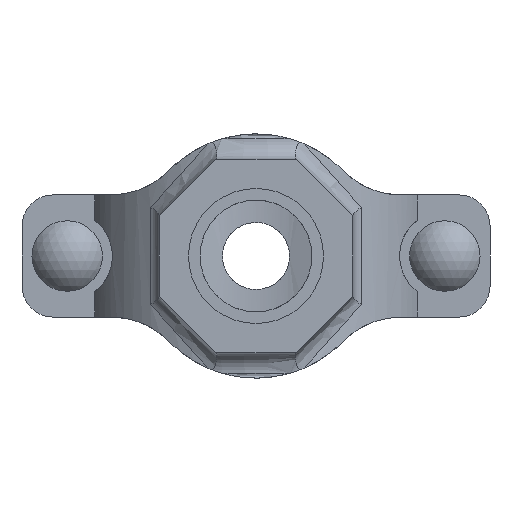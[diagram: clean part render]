
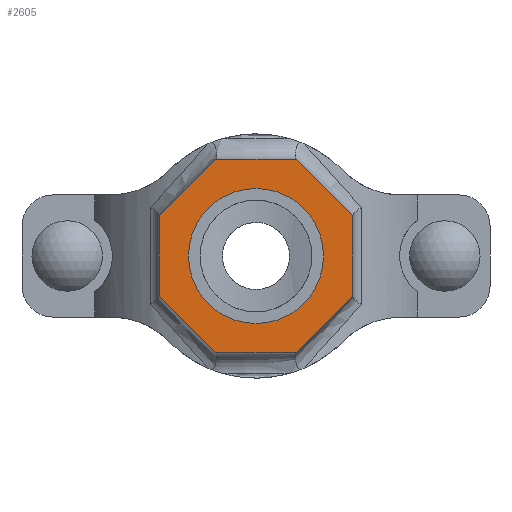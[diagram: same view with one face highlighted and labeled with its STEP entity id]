
A CAD part, front view. The second image highlights one B-rep face of the part: STEP entity #2605.
In plain terms, the highlighted planar face has unit normal (0, -1, 0) as drawn and (0, 1, 0) by its records, which use the part's own axes.
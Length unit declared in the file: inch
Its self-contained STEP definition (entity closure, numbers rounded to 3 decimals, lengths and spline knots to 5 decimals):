
#200=FACE_BOUND('',#475,.T.);
#321=FACE_OUTER_BOUND('',#474,.T.);
#474=EDGE_LOOP('',(#2173,#2174,#2175,#2176,#2177,#2178,#2179,#2180));
#475=EDGE_LOOP('',(#2181));
#615=LINE('',#4800,#801);
#618=LINE('',#4805,#804);
#620=LINE('',#4809,#806);
#622=LINE('',#4813,#808);
#654=LINE('',#5130,#840);
#656=LINE('',#5134,#842);
#658=LINE('',#5138,#844);
#660=LINE('',#5141,#846);
#801=VECTOR('',#3362,0.3937);
#804=VECTOR('',#3367,0.3937);
#806=VECTOR('',#3371,0.3937);
#808=VECTOR('',#3375,0.3937);
#840=VECTOR('',#3489,0.3937);
#842=VECTOR('',#3493,0.3937);
#844=VECTOR('',#3497,0.3937);
#846=VECTOR('',#3501,0.3937);
#936=CIRCLE('',#2871,0.83);
#1132=VERTEX_POINT('',#4797);
#1133=VERTEX_POINT('',#4799);
#1134=VERTEX_POINT('',#4803);
#1135=VERTEX_POINT('',#4807);
#1136=VERTEX_POINT('',#4811);
#1157=VERTEX_POINT('',#4958);
#1180=VERTEX_POINT('',#5129);
#1181=VERTEX_POINT('',#5133);
#1182=VERTEX_POINT('',#5137);
#1454=EDGE_CURVE('',#1133,#1132,#615,.T.);
#1457=EDGE_CURVE('',#1132,#1134,#618,.T.);
#1459=EDGE_CURVE('',#1134,#1135,#620,.T.);
#1461=EDGE_CURVE('',#1135,#1136,#622,.T.);
#1492=EDGE_CURVE('',#1157,#1157,#936,.T.);
#1523=EDGE_CURVE('',#1180,#1133,#654,.T.);
#1525=EDGE_CURVE('',#1181,#1180,#656,.T.);
#1527=EDGE_CURVE('',#1182,#1181,#658,.T.);
#1529=EDGE_CURVE('',#1136,#1182,#660,.T.);
#2173=ORIENTED_EDGE('',*,*,#1529,.T.);
#2174=ORIENTED_EDGE('',*,*,#1527,.T.);
#2175=ORIENTED_EDGE('',*,*,#1525,.T.);
#2176=ORIENTED_EDGE('',*,*,#1523,.T.);
#2177=ORIENTED_EDGE('',*,*,#1454,.T.);
#2178=ORIENTED_EDGE('',*,*,#1457,.T.);
#2179=ORIENTED_EDGE('',*,*,#1459,.T.);
#2180=ORIENTED_EDGE('',*,*,#1461,.T.);
#2181=ORIENTED_EDGE('',*,*,#1492,.T.);
#2341=PLANE('',#2892);
#2605=ADVANCED_FACE('',(#321,#200),#2341,.T.);
#2871=AXIS2_PLACEMENT_3D('',#4959,#3439,#3440);
#2892=AXIS2_PLACEMENT_3D('',#5142,#3502,#3503);
#3362=DIRECTION('',(0.,0.,1.));
#3367=DIRECTION('',(0.707,0.,0.707));
#3371=DIRECTION('',(1.,0.,0.));
#3375=DIRECTION('',(0.707,0.,-0.707));
#3439=DIRECTION('center_axis',(0.,-1.,0.));
#3440=DIRECTION('ref_axis',(-1.,0.,0.));
#3489=DIRECTION('',(-0.707,0.,0.707));
#3493=DIRECTION('',(-1.,0.,0.));
#3497=DIRECTION('',(-0.707,0.,-0.707));
#3501=DIRECTION('',(0.,0.,-1.));
#3502=DIRECTION('center_axis',(0.,1.,0.));
#3503=DIRECTION('ref_axis',(0.,0.,1.));
#4797=CARTESIAN_POINT('',(-1.19,3.25,0.49291));
#4799=CARTESIAN_POINT('',(-1.19,3.25,-0.49291));
#4800=CARTESIAN_POINT('',(-1.19,3.25,0.49291));
#4803=CARTESIAN_POINT('',(-0.49291,3.25,1.19));
#4805=CARTESIAN_POINT('',(-0.49291,3.25,1.19));
#4807=CARTESIAN_POINT('',(0.49291,3.25,1.19));
#4809=CARTESIAN_POINT('',(0.49291,3.25,1.19));
#4811=CARTESIAN_POINT('',(1.19,3.25,0.49291));
#4813=CARTESIAN_POINT('',(1.19,3.25,0.49291));
#4958=CARTESIAN_POINT('',(0.83,3.25,0.));
#4959=CARTESIAN_POINT('Origin',(0.,3.25,0.));
#5129=CARTESIAN_POINT('',(-0.49291,3.25,-1.19));
#5130=CARTESIAN_POINT('',(-1.19,3.25,-0.49291));
#5133=CARTESIAN_POINT('',(0.49291,3.25,-1.19));
#5134=CARTESIAN_POINT('',(-0.49291,3.25,-1.19));
#5137=CARTESIAN_POINT('',(1.19,3.25,-0.49291));
#5138=CARTESIAN_POINT('',(0.49291,3.25,-1.19));
#5141=CARTESIAN_POINT('',(1.19,3.25,-0.49291));
#5142=CARTESIAN_POINT('Origin',(0.,3.25,0.));
